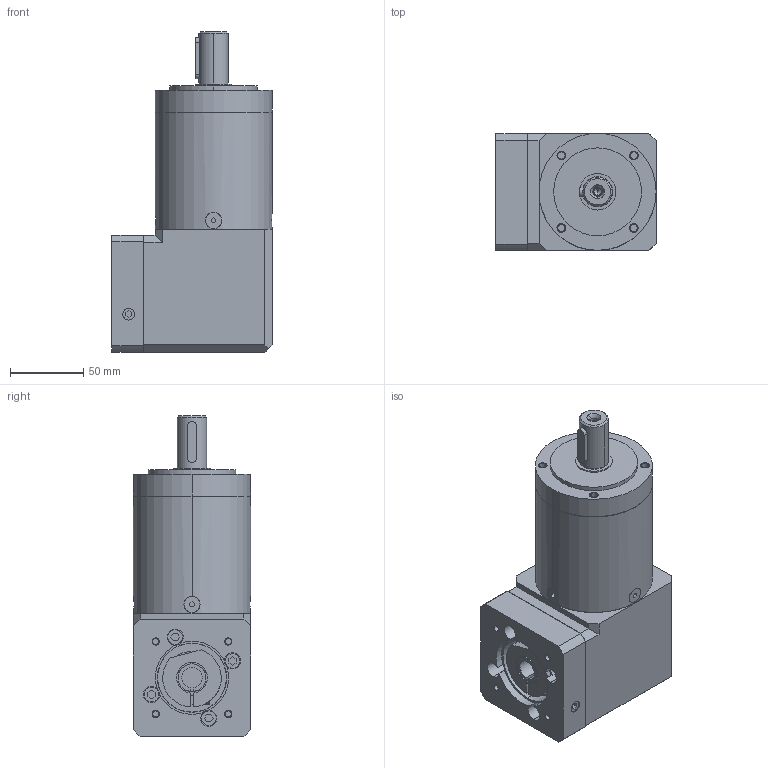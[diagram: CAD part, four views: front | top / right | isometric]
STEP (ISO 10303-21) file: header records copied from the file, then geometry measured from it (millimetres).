
FILE_DESCRIPTION((''),'2;1');
FILE_NAME('MB_WPLE_MASTER','2026-03-26T12:47:51',('agw'),(''),'CREO PARAMETRIC BY PTC INC, 2022124','CREO PARAMETRIC BY PTC INC, 2022124','');
FILE_SCHEMA(('AUTOMOTIVE_DESIGN { 1 0 10303 214 1 1 1 1 }'));
Length unit declared in the file: millimetre
Products named in the file (1): MB_WPLE_MASTER
Bounding box: 109.5 x 80 x 219 mm (x, y, z)
Volume: 1185732.3 mm3; surface area: 93241.9 mm2
Topology: 1 solids, 10 shells, 289 faces, 727 edges, 529 vertices
Faces by surface type: plane 163, cylinder 112, torus 8, cone 6
Entity records: 10242 total; most frequent: CARTESIAN_POINT 1688, DIRECTION 1577, ORIENTED_EDGE 1340, EDGE_CURVE 688, AXIS2_PLACEMENT_3D 558, VECTOR 461, LINE 461, VERTEX_POINT 453
